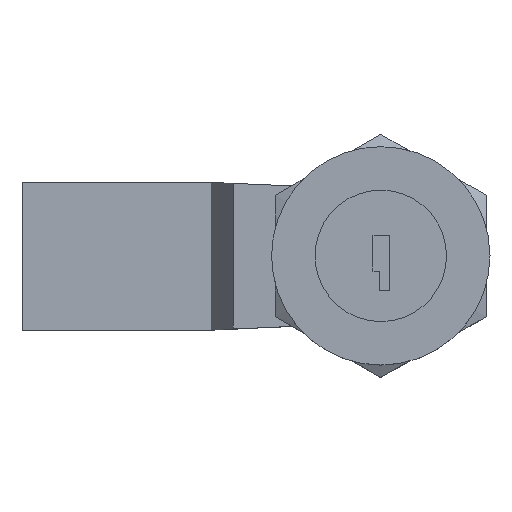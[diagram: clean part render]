
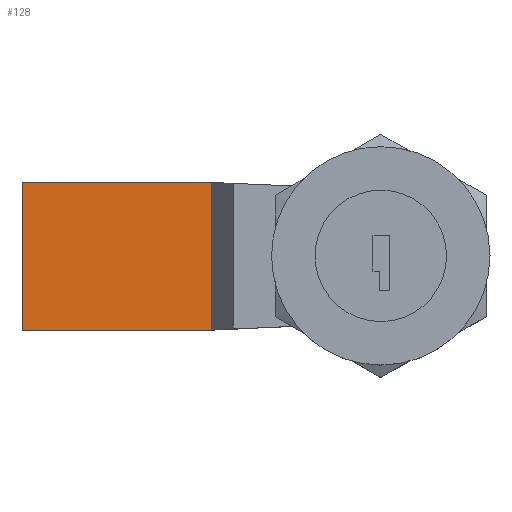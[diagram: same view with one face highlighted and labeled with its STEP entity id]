
A CAD part, top view. The second image highlights one B-rep face of the part: STEP entity #128.
In plain terms, the highlighted planar face has unit normal (0, 0, 1).
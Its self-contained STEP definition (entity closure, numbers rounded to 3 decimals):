
#128 = ADVANCED_FACE( '', ( #327 ), #328, .F. );
#327 = FACE_OUTER_BOUND( '', #607, .T. );
#328 = PLANE( '', #608 );
#607 = EDGE_LOOP( '', ( #938, #939, #940, #941, #942, #943 ) );
#608 = AXIS2_PLACEMENT_3D( '', #944, #945, #946 );
#938 = ORIENTED_EDGE( '', *, *, #1666, .F. );
#939 = ORIENTED_EDGE( '', *, *, #1667, .F. );
#940 = ORIENTED_EDGE( '', *, *, #1668, .T. );
#941 = ORIENTED_EDGE( '', *, *, #1669, .T. );
#942 = ORIENTED_EDGE( '', *, *, #1670, .F. );
#943 = ORIENTED_EDGE( '', *, *, #1671, .F. );
#944 = CARTESIAN_POINT( '', ( -46., 9.5, -29.156 ) );
#945 = DIRECTION( '', ( 0., 0., -1. ) );
#946 = DIRECTION( '', ( -1., 0., 0. ) );
#1666 = EDGE_CURVE( '', #2004, #2005, #2006, .T. );
#1667 = EDGE_CURVE( '', #2007, #2004, #2008, .T. );
#1668 = EDGE_CURVE( '', #2007, #2009, #2010, .T. );
#1669 = EDGE_CURVE( '', #2009, #2011, #2012, .T. );
#1670 = EDGE_CURVE( '', #2013, #2011, #2014, .T. );
#1671 = EDGE_CURVE( '', #2005, #2013, #2015, .T. );
#2004 = VERTEX_POINT( '', #2529 );
#2005 = VERTEX_POINT( '', #2530 );
#2006 = LINE( '', #2531, #2532 );
#2007 = VERTEX_POINT( '', #2533 );
#2008 = LINE( '', #2534, #2535 );
#2009 = VERTEX_POINT( '', #2536 );
#2010 = LINE( '', #2537, #2538 );
#2011 = VERTEX_POINT( '', #2539 );
#2012 = LINE( '', #2540, #2541 );
#2013 = VERTEX_POINT( '', #2542 );
#2014 = LINE( '', #2543, #2544 );
#2015 = LINE( '', #2545, #2546 );
#2529 = CARTESIAN_POINT( '', ( -22.66, 9.5, -29.156 ) );
#2530 = CARTESIAN_POINT( '', ( -21.757, 9.46, -29.156 ) );
#2531 = CARTESIAN_POINT( '', ( -45.955, 10.52, -29.156 ) );
#2532 = VECTOR( '', #3181, 1000. );
#2533 = CARTESIAN_POINT( '', ( -46., 9.5, -29.156 ) );
#2534 = CARTESIAN_POINT( '', ( -46., 9.5, -29.156 ) );
#2535 = VECTOR( '', #3182, 1000. );
#2536 = CARTESIAN_POINT( '', ( -46., -9.5, -29.156 ) );
#2537 = CARTESIAN_POINT( '', ( -46., 9.5, -29.156 ) );
#2538 = VECTOR( '', #3183, 1000. );
#2539 = CARTESIAN_POINT( '', ( -22.66, -9.5, -29.156 ) );
#2540 = CARTESIAN_POINT( '', ( -46., -9.5, -29.156 ) );
#2541 = VECTOR( '', #3184, 1000. );
#2542 = CARTESIAN_POINT( '', ( -21.757, -9.46, -29.156 ) );
#2543 = CARTESIAN_POINT( '', ( -45.125, -10.483, -29.156 ) );
#2544 = VECTOR( '', #3185, 1000. );
#2545 = CARTESIAN_POINT( '', ( -21.757, 9.5, -29.156 ) );
#2546 = VECTOR( '', #3186, 1000. );
#3181 = DIRECTION( '', ( 0.999, -0.044, 0. ) );
#3182 = DIRECTION( '', ( 1., 0., 0. ) );
#3183 = DIRECTION( '', ( 0., -1., 0. ) );
#3184 = DIRECTION( '', ( 1., 0., 0. ) );
#3185 = DIRECTION( '', ( -0.999, -0.044, 0. ) );
#3186 = DIRECTION( '', ( 0., -1., 0. ) );
